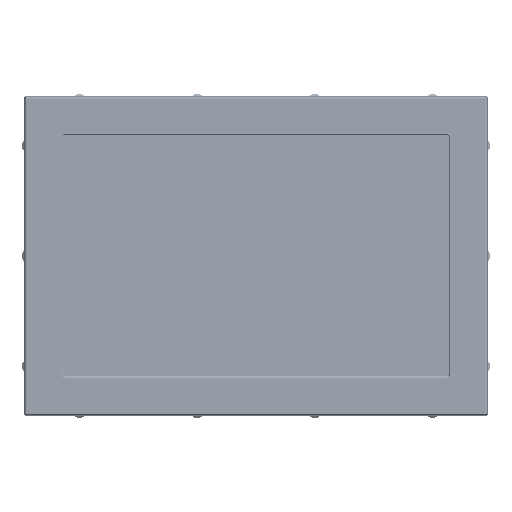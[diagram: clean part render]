
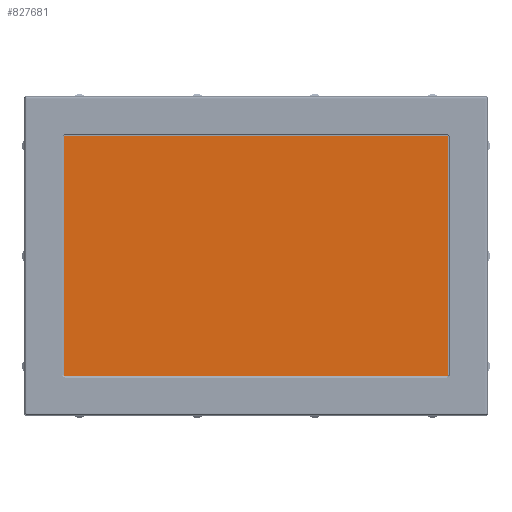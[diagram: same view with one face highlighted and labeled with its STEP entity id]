
A CAD part, top view. The second image highlights one B-rep face of the part: STEP entity #827681.
In plain terms, the highlighted planar face has unit normal (0, 0, 1) as drawn and (0, -1, 0) by its records, which use the part's own axes.
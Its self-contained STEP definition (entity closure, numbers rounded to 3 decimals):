
#4488 = DIRECTION ( 'NONE',  ( 0., -1., 0. ) ) ;
#9629 = LINE ( 'NONE', #740885, #819049 ) ;
#58317 = VECTOR ( 'NONE', #186424, 1000. ) ;
#69155 = CARTESIAN_POINT ( 'NONE',  ( 130.81, 0.1, 81.8 ) ) ;
#79361 = DIRECTION ( 'NONE',  ( -1., 0., 0. ) ) ;
#79671 = VERTEX_POINT ( 'NONE', #232071 ) ;
#119884 = LINE ( 'NONE', #494985, #403059 ) ;
#186424 = DIRECTION ( 'NONE',  ( 1., 0., 0. ) ) ;
#195884 = LINE ( 'NONE', #277509, #58317 ) ;
#232071 = CARTESIAN_POINT ( 'NONE',  ( -130.31, 0.1, 81.8 ) ) ;
#277509 = CARTESIAN_POINT ( 'NONE',  ( -130.31, 0.1, -81.4 ) ) ;
#317009 = DIRECTION ( 'NONE',  ( 0., 0., -1. ) ) ;
#332320 = VERTEX_POINT ( 'NONE', #892502 ) ;
#388890 = PLANE ( 'NONE',  #885315 ) ;
#390240 = ORIENTED_EDGE ( 'NONE', *, *, #795947, .T. ) ;
#393737 = VERTEX_POINT ( 'NONE', #69155 ) ;
#403059 = VECTOR ( 'NONE', #788524, 1000. ) ;
#431095 = ORIENTED_EDGE ( 'NONE', *, *, #632675, .T. ) ;
#475840 = VECTOR ( 'NONE', #79361, 1000. ) ;
#494985 = CARTESIAN_POINT ( 'NONE',  ( 130.81, 0.1, -81.4 ) ) ;
#632675 = EDGE_CURVE ( 'NONE', #896063, #393737, #119884, .T. ) ;
#653713 = CARTESIAN_POINT ( 'NONE',  ( 130.81, 0.1, -81.4 ) ) ;
#663619 = CARTESIAN_POINT ( 'NONE',  ( 0., 0.1, 0. ) ) ;
#668330 = FACE_OUTER_BOUND ( 'NONE', #924730, .T. ) ;
#694636 = ORIENTED_EDGE ( 'NONE', *, *, #771651, .T. ) ;
#738541 = CARTESIAN_POINT ( 'NONE',  ( 130.81, 0.1, 81.8 ) ) ;
#740885 = CARTESIAN_POINT ( 'NONE',  ( -130.31, 0.1, 81.8 ) ) ;
#771651 = EDGE_CURVE ( 'NONE', #332320, #896063, #195884, .T. ) ;
#777933 = EDGE_CURVE ( 'NONE', #79671, #332320, #9629, .T. ) ;
#788524 = DIRECTION ( 'NONE',  ( 0., 0., 1. ) ) ;
#795947 = EDGE_CURVE ( 'NONE', #393737, #79671, #882701, .T. ) ;
#819049 = VECTOR ( 'NONE', #317009, 1000. ) ;
#827681 = ADVANCED_FACE ( 'NONE', ( #668330 ), #388890, .T. ) ;
#829444 = ORIENTED_EDGE ( 'NONE', *, *, #777933, .T. ) ;
#845668 = DIRECTION ( 'NONE',  ( 1., 0., 0. ) ) ;
#882701 = LINE ( 'NONE', #738541, #475840 ) ;
#885315 = AXIS2_PLACEMENT_3D ( 'NONE', #663619, #4488, #845668 ) ;
#892502 = CARTESIAN_POINT ( 'NONE',  ( -130.31, 0.1, -81.4 ) ) ;
#896063 = VERTEX_POINT ( 'NONE', #653713 ) ;
#924730 = EDGE_LOOP ( 'NONE', ( #694636, #431095, #390240, #829444 ) ) ;
